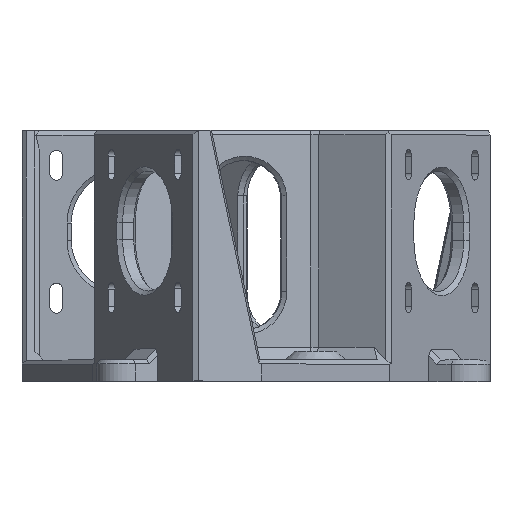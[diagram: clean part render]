
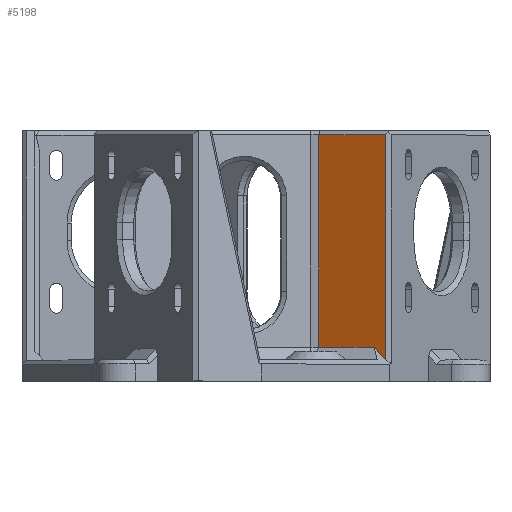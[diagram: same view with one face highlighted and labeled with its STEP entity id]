
A CAD part, top view. The second image highlights one B-rep face of the part: STEP entity #5198.
In plain terms, the highlighted planar face has unit normal (-0.5, 0, 0.866).
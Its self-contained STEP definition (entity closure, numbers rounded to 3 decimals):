
#549=FACE_OUTER_BOUND('',#904,.T.);
#904=EDGE_LOOP('',(#4550,#4551,#4552,#4553,#4554));
#1030=LINE('',#7305,#1615);
#1060=LINE('',#7369,#1645);
#1243=LINE('',#7794,#1828);
#1283=LINE('',#7891,#1868);
#1440=LINE('',#8302,#2025);
#1615=VECTOR('',#5820,10.);
#1645=VECTOR('',#5868,10.);
#1828=VECTOR('',#6199,10.);
#1868=VECTOR('',#6281,10.);
#2025=VECTOR('',#6714,10.);
#2200=VERTEX_POINT('',#7302);
#2201=VERTEX_POINT('',#7304);
#2225=VERTEX_POINT('',#7366);
#2226=VERTEX_POINT('',#7368);
#2394=VERTEX_POINT('',#7793);
#2673=EDGE_CURVE('',#2200,#2201,#1030,.T.);
#2704=EDGE_CURVE('',#2225,#2226,#1060,.T.);
#2920=EDGE_CURVE('',#2394,#2200,#1243,.F.);
#2970=EDGE_CURVE('',#2226,#2394,#1283,.T.);
#3177=EDGE_CURVE('',#2201,#2225,#1440,.T.);
#4550=ORIENTED_EDGE('',*,*,#2920,.F.);
#4551=ORIENTED_EDGE('',*,*,#2970,.F.);
#4552=ORIENTED_EDGE('',*,*,#2704,.F.);
#4553=ORIENTED_EDGE('',*,*,#3177,.F.);
#4554=ORIENTED_EDGE('',*,*,#2673,.F.);
#4940=PLANE('',#5625);
#5198=ADVANCED_FACE('',(#549),#4940,.T.);
#5625=AXIS2_PLACEMENT_3D('',#8493,#6964,#6965);
#5820=DIRECTION('',(-0.866,0.,-0.5));
#5868=DIRECTION('',(0.866,0.,0.5));
#6199=DIRECTION('',(0.617,-0.702,0.356));
#6281=DIRECTION('',(0.,-1.,0.));
#6714=DIRECTION('',(0.,1.,0.));
#6964=DIRECTION('center_axis',(-0.5,0.,0.866));
#6965=DIRECTION('ref_axis',(0.,1.,0.));
#7302=CARTESIAN_POINT('',(110.129,31.,-13.76));
#7304=CARTESIAN_POINT('',(97.187,31.,-21.232));
#7305=CARTESIAN_POINT('',(96.321,31.,-21.732));
#7366=CARTESIAN_POINT('',(97.187,80.5,-21.232));
#7368=CARTESIAN_POINT('',(112.775,80.5,-12.232));
#7369=CARTESIAN_POINT('',(85.785,80.5,-27.815));
#7793=CARTESIAN_POINT('',(112.775,27.986,-12.232));
#7794=CARTESIAN_POINT('',(113.291,27.399,-11.934));
#7891=CARTESIAN_POINT('',(112.775,-8.75,-12.232));
#8302=CARTESIAN_POINT('',(97.187,52.25,-21.232));
#8493=CARTESIAN_POINT('Origin',(113.641,23.,-11.732));
